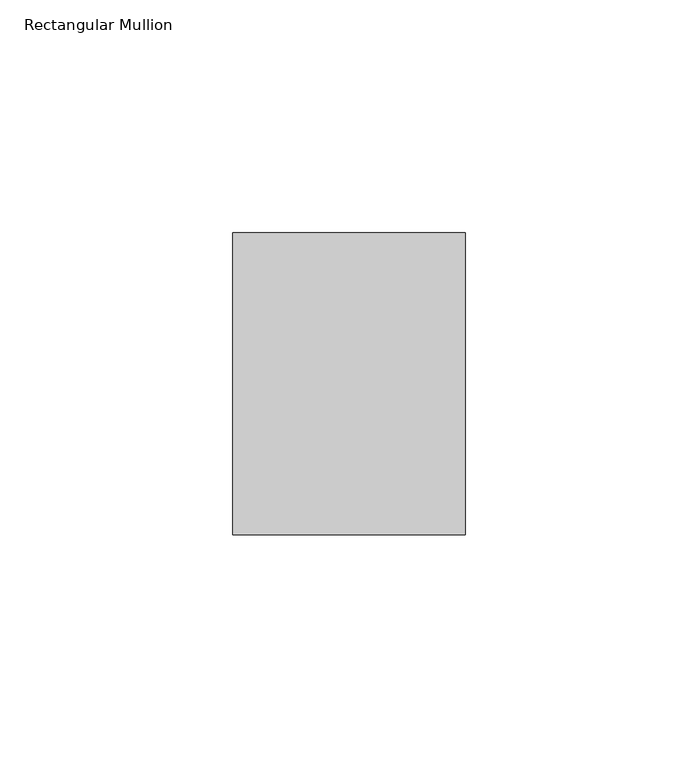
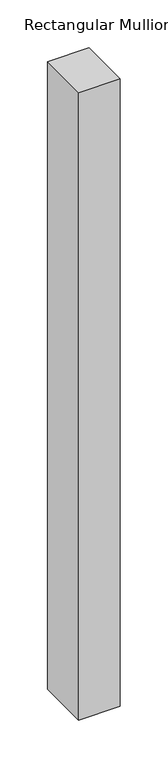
"""IFC4 building model written with IfcOpenShell, lengths in millimetres: member geometry, Rectangular Mullion : MCGRORY - Forster Fuego Light - 60 Min Rated - Side Mullion A."""

from ifc_helpers import new_model, si_unit, frame, origin, place, context, project, spatial, polyline, outline, extrude, source, transform, mapped, element, save


def rectangular_mullion_b10fa2df(model_context):
    return source(origin(), model_context, "Body", "SweptSolid", [
        extrude(outline(polyline([(-49.9781277, -32.485783), (-49.9781277, 32.485783), (0.0, 32.485783), (0.0, -32.485783), (-49.9781277, -32.485783)])), frame((0.0, 0.0, -800.0), z_axis=(0.0, 0.0, 1.0), x_axis=(1.0, 0.0, 0.0)), (0.0, 0.0, 1.0), 800.0),
    ])


if __name__ == "__main__":
    model = new_model("IFC4")
    model_context = context("Model", 3, world=origin())
    ifc_project = project(units=[si_unit("LENGTHUNIT", "METRE", prefix="MILLI")], contexts=[model_context])
    site = spatial("IfcSite", under=ifc_project)
    building = spatial("IfcBuilding", under=site)
    placement = place(None, origin())
    rectangular_mullion_shape = rectangular_mullion_b10fa2df(model_context)
    element("IfcMember", 1, ObjectType="Rectangular Mullion : MCGRORY - Forster Fuego Light - 60 Min Rated - Side Mullion A", at=placement, inside=building, context=model_context, shape_type="MappedRepresentation", body=[
        mapped(rectangular_mullion_shape, transform((0.0, 0.0, 0.0), x_axis=(1.0, 0.0, 0.0), y_axis=(0.0, 1.0, 0.0), z_axis=(0.0, 0.0, 1.0))),
    ])
    save(model, "model.ifc")
